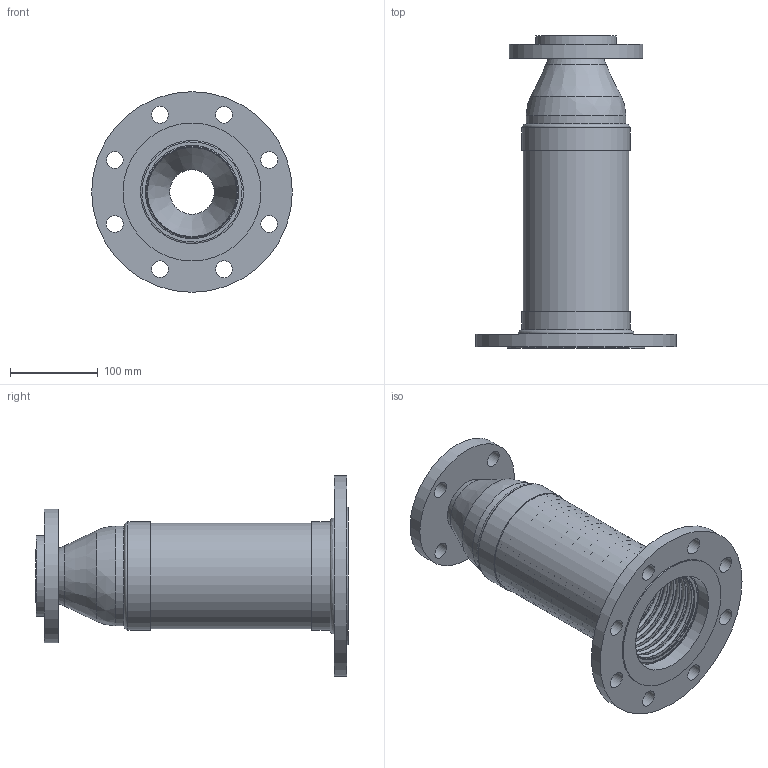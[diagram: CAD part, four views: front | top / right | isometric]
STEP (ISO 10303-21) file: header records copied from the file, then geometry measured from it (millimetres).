
FILE_DESCRIPTION((''),'2;1');
FILE_NAME('C:\2012_Work\Designs\RFFL\RFFL-4x2in.stp','2013-08-19T14:26:30',('KShiels'),(''),'Autodesk Inventor 2012','Autodesk Inventor 2012','');
FILE_SCHEMA(('AUTOMOTIVE_DESIGN { 1 0 10303 214 1 1 1 1 }'));
Length unit declared in the file: inch
Products named in the file (9): RFFL-4x2in; RFFL-4x2in_Welds; A-30995_4in_RFFL-BRAID; A-30995_4in_RFFL-BELLOWS; A-30995_4in_RFFL-BRAID-COLLAR; A-30988_4in-FIXED-FLANGE; A-30989_2in-FLOATING-FLANGE; A-30991_4x2in-REDUCER; A-30990_2in-WASHER
Assembly tree (9 placements, depth 2):
  RFFL-4x2in
    RFFL-4x2in_Welds
    A-30995_4in_RFFL-BRAID
    A-30995_4in_RFFL-BELLOWS
    A-30995_4in_RFFL-BRAID-COLLAR  x2
    A-30988_4in-FIXED-FLANGE
    A-30989_2in-FLOATING-FLANGE
    A-30991_4x2in-REDUCER
    A-30990_2in-WASHER
Bounding box: 228.6 x 355.76 x 228.6 mm (x, y, z)
Volume: 952738.2 mm3; surface area: 821761.2 mm2
Topology: 11 solids, 11 shells, 264 faces, 443 edges, 299 vertices
Faces by surface type: plane 120, torus 103, cylinder 32, cone 5, bspline 4
Full cylindrical faces by diameter (mm): 19.05 x12, 50.8 x1, 58.623 x1, 63.5 x3, 92.075 x1, 101.6 x1, 113.64 x2, 117.475 x1, 119.888 x1, 120.701 x3, 123.082 x3, 152.4 x1, 157.163 x1, 228.6 x1
Entity records: 6628 total; most frequent: CARTESIAN_POINT 1737, DIRECTION 1080, ORIENTED_EDGE 562, EDGE_LOOP 541, AXIS2_PLACEMENT_3D 540, EDGE_CURVE 281, FACE_BOUND 281, VERTEX_POINT 278
